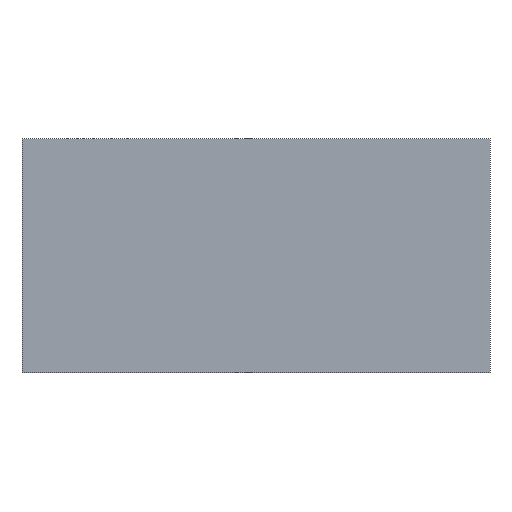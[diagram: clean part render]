
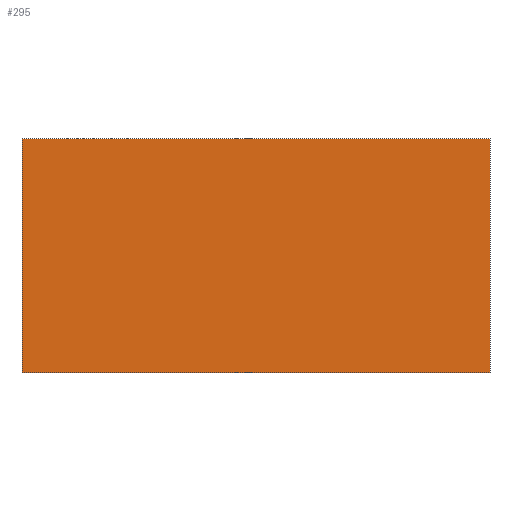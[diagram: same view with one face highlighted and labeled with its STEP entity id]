
A CAD part, front view. The second image highlights one B-rep face of the part: STEP entity #295.
In plain terms, the highlighted planar face has unit normal (0, -1, 0).
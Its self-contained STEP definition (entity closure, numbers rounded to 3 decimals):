
#21=FACE_OUTER_BOUND('',#37,.T.);
#37=EDGE_LOOP('',(#222,#223,#224,#225));
#66=LINE('',#457,#106);
#68=LINE('',#461,#108);
#69=LINE('',#463,#109);
#70=LINE('',#464,#110);
#106=VECTOR('',#374,10.);
#108=VECTOR('',#378,10.);
#109=VECTOR('',#379,10.);
#110=VECTOR('',#380,10.);
#141=VERTEX_POINT('',#454);
#142=VERTEX_POINT('',#456);
#143=VERTEX_POINT('',#460);
#144=VERTEX_POINT('',#462);
#172=EDGE_CURVE('',#141,#142,#66,.T.);
#174=EDGE_CURVE('',#143,#141,#68,.T.);
#175=EDGE_CURVE('',#144,#143,#69,.T.);
#176=EDGE_CURVE('',#142,#144,#70,.T.);
#222=ORIENTED_EDGE('',*,*,#174,.F.);
#223=ORIENTED_EDGE('',*,*,#175,.F.);
#224=ORIENTED_EDGE('',*,*,#176,.F.);
#225=ORIENTED_EDGE('',*,*,#172,.F.);
#279=PLANE('',#331);
#295=ADVANCED_FACE('',(#21),#279,.T.);
#331=AXIS2_PLACEMENT_3D('',#459,#376,#377);
#374=DIRECTION('',(-1.,0.,0.));
#376=DIRECTION('center_axis',(0.,-1.,0.));
#377=DIRECTION('ref_axis',(1.,0.,0.));
#378=DIRECTION('',(0.,0.,-1.));
#379=DIRECTION('',(1.,0.,0.));
#380=DIRECTION('',(0.,0.,1.));
#454=CARTESIAN_POINT('',(30.,-25.,-15.));
#456=CARTESIAN_POINT('',(-30.,-25.,-15.));
#457=CARTESIAN_POINT('',(-30.,-25.,-15.));
#459=CARTESIAN_POINT('Origin',(-30.,-25.,0.));
#460=CARTESIAN_POINT('',(30.,-25.,15.));
#461=CARTESIAN_POINT('',(30.,-25.,0.));
#462=CARTESIAN_POINT('',(-30.,-25.,15.));
#463=CARTESIAN_POINT('',(-30.,-25.,15.));
#464=CARTESIAN_POINT('',(-30.,-25.,0.));
